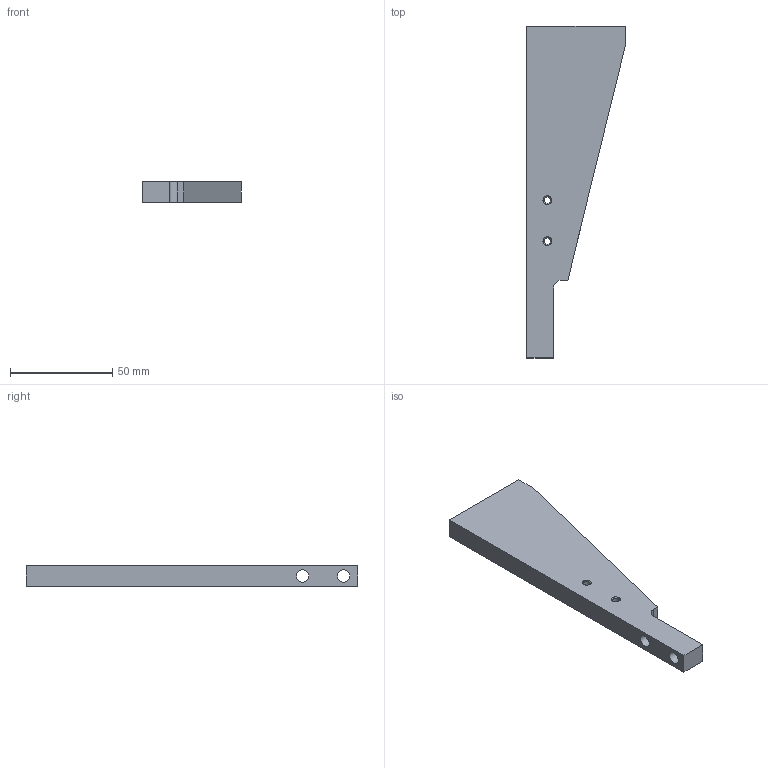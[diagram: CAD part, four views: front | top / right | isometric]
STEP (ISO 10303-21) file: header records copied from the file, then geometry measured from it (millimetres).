
FILE_DESCRIPTION(('STEP AP203'), '1');
FILE_NAME('ﾒﾏﾏﾔ1801.01.07.00.008 - ﾐ裔', '', ('UNSPECIFIED'), ('UNSPECIFIED'), 'C3D Converter', 'C3D Toolkit', '');
FILE_SCHEMA(('CONFIG_CONTROL_DESIGN'));
Length unit declared in the file: millimetre
Products named in the file (1): ТППФ1801.01.07.00.008
Bounding box: 48 x 162 x 10 mm (x, y, z)
Volume: 47280.1 mm3; surface area: 14484.2 mm2
Topology: 1 solids, 1 shells, 24 faces, 58 edges, 36 vertices
Faces by surface type: plane 9, cone 8, cylinder 7
Full cylindrical faces by diameter (mm): 3.242 x2, 4.134 x2, 6 x2
Entity records: 853 total; most frequent: DIRECTION 112, CARTESIAN_POINT 101, ORIENTED_EDGE 84, EDGE_LOOP 46, AXIS2_PLACEMENT_3D 45, EDGE_CURVE 42, VERTEX_POINT 34, FACE_OUTER_BOUND 26
